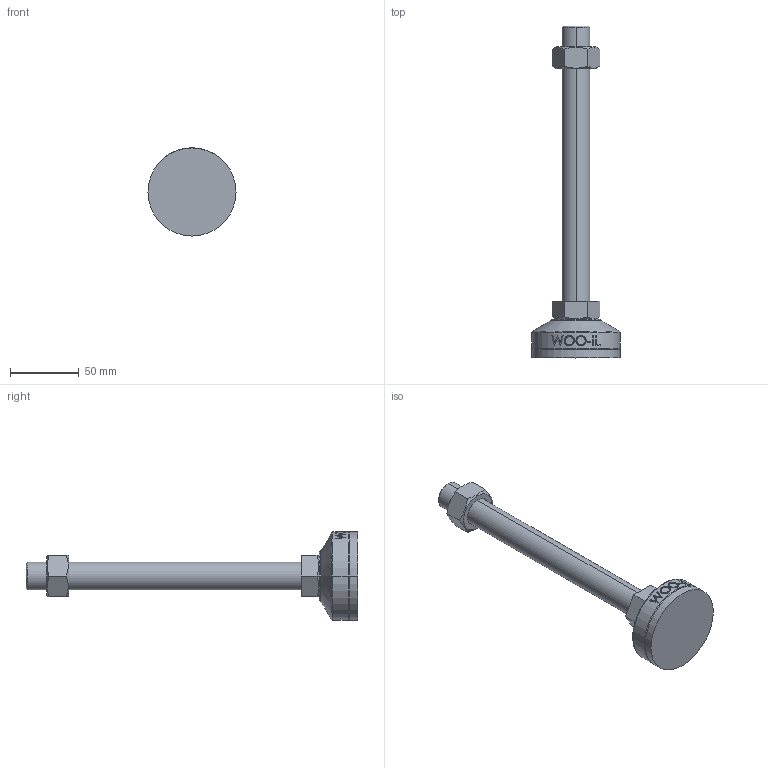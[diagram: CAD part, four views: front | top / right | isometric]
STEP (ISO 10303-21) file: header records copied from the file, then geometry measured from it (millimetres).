
FILE_DESCRIPTION (( 'STEP AP214' ), '1' );
FILE_NAME ('MFZR64-M20-200.step', '2021-03-29T06:57:04', ( '' ), ( '' ), 'SwSTEP 2.0', 'SolidWorks 2019', '' );
FILE_SCHEMA (( 'AUTOMOTIVE_DESIGN' ));
Length unit declared in the file: millimetre
Products named in the file (2): MFZR64-M20-200
Bounding box: 64 x 241 x 64 mm (x, y, z)
Volume: 158576.8 mm3; surface area: 29831.3 mm2
Topology: 3 solids, 3 shells, 102 faces, 239 edges, 154 vertices
Faces by surface type: plane 48, cylinder 18, bspline 16, cone 14, torus 6
Entity records: 4460 total; most frequent: CARTESIAN_POINT 2185, ORIENTED_EDGE 478, DIRECTION 415, EDGE_CURVE 239, AXIS2_PLACEMENT_3D 158, VERTEX_POINT 154, EDGE_LOOP 115, FACE_OUTER_BOUND 102
